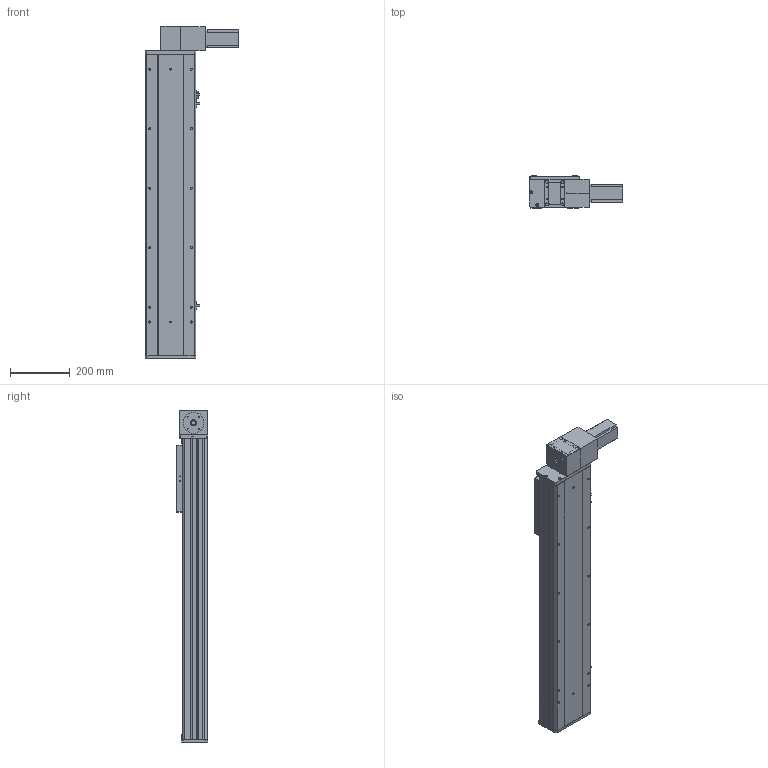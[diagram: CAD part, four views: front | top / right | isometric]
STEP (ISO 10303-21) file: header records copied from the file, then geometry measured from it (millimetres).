
FILE_DESCRIPTION (( 'STEP AP203' ), '1' );
FILE_NAME ('Y170CB-D105-S700-BD-P400W.STEP', '2020-02-20T08:25:56', ( '微软用户' ), ( '微软中国' ), 'SwSTEP 2.0', 'SolidWorks 2017', '' );
FILE_SCHEMA (( 'CONFIG_CONTROL_DESIGN' ));
Length unit declared in the file: millimetre
Products named in the file (16): Y100-135俋离換覜ん--; 70CB-掛极-; Y170CB-陔俋离換覜結え---; --70CB --喘謫眊楊擘啣-; Y1埴倛裔; 70CB-耜裔啣-; 70B喘謫眊----; 70C--詩湍揤踡え-; 0B薊粣ん眊-400W--; 70CB--耜裔; Y170CB-D105-S700-BD-P400W; 70C-雄赽釱-奻-; 0C--雄赽釱俋欶-170; B-源倛裔啣; 70CB-詩湍--; san松下电机400不带刹车----
Assembly tree (19 placements, depth 2):
  Y170CB-D105-S700-BD-P400W
    B-源倛裔啣
    san松下电机400不带刹车----
    70CB-掛极-
    --70CB --喘謫眊楊擘啣-
    70CB-耜裔啣-  x2
    70C--詩湍揤踡え-  x2
    70CB--耜裔
    70C-雄赽釱-奻-
    0C--雄赽釱俋欶-170
    70CB-詩湍--
    Y100-135俋离換覜ん--  x3
    Y170CB-陔俋离換覜結え---
    Y1埴倛裔
    70B喘謫眊----
    0B薊粣ん眊-400W--
Bounding box: 313.5 x 107 x 1116 mm (x, y, z)
Volume: 5645029.3 mm3; surface area: 1885989.6 mm2
Topology: 19 solids, 19 shells, 912 faces, 2402 edges, 1592 vertices
Faces by surface type: cylinder 466, plane 422, cone 24
Entity records: 28427 total; most frequent: CARTESIAN_POINT 5266, DIRECTION 4623, ORIENTED_EDGE 4286, EDGE_CURVE 2143, AXIS2_PLACEMENT_3D 1701, VERTEX_POINT 1422, LINE 1221, VECTOR 1221
